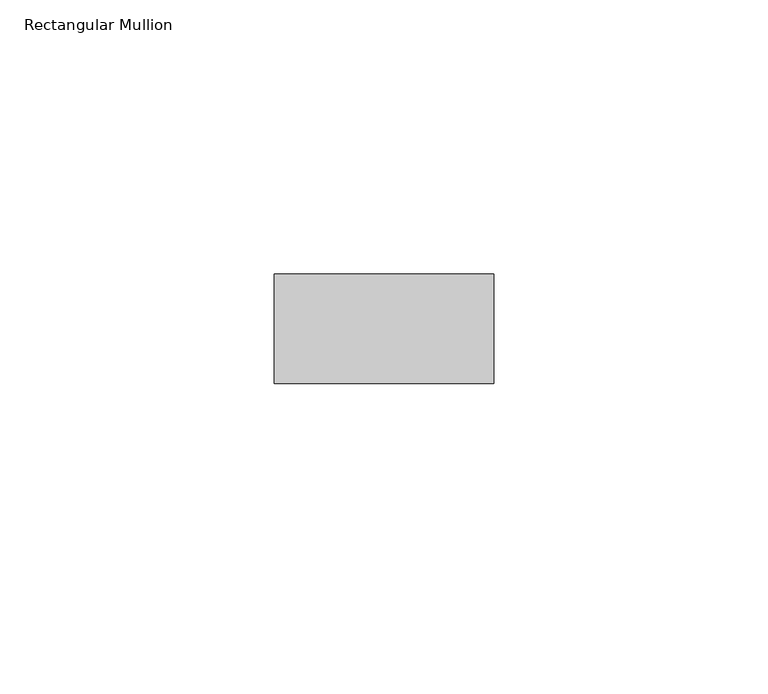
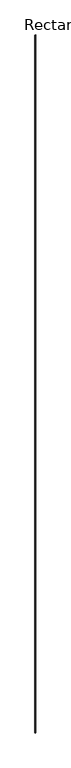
"""IFC4 building model written with IfcOpenShell, lengths in millimetres: member geometry, Rectangular Mullion : RIPA 4x2 cm."""

from ifc_helpers import new_model, si_unit, frame, origin, place, context, project, spatial, polyline, outline, extrude, source, transform, mapped, element, save


def rectangular_mullion_c6be1113(model_context):
    return source(origin(), model_context, "Body", "SweptSolid", [
        extrude(outline(polyline([(20.0, 0.0), (20.0, -20.0), (-20.0, -20.0), (-20.0, 0.0), (20.0, 0.0)])), frame((0.0, 0.0, -37769.9222499), z_axis=(0.0, 0.0, 1.0), x_axis=(1.0, 0.0, 0.0)), (0.0, 0.0, 1.0), 37769.9222499),
    ])


if __name__ == "__main__":
    model = new_model("IFC4")
    model_context = context("Model", 3, world=origin())
    ifc_project = project(units=[si_unit("LENGTHUNIT", "METRE", prefix="MILLI")], contexts=[model_context])
    site = spatial("IfcSite", under=ifc_project)
    building = spatial("IfcBuilding", under=site)
    placement = place(None, origin())
    rectangular_mullion_shape = rectangular_mullion_c6be1113(model_context)
    element("IfcMember", 1, ObjectType="Rectangular Mullion : RIPA 4x2 cm", at=placement, inside=building, context=model_context, shape_type="MappedRepresentation", body=[
        mapped(rectangular_mullion_shape, transform((0.0, 0.0, 0.0), x_axis=(1.0, 0.0, 0.0), y_axis=(0.0, 1.0, 0.0), z_axis=(0.0, 0.0, 1.0))),
    ])
    save(model, "model.ifc")
